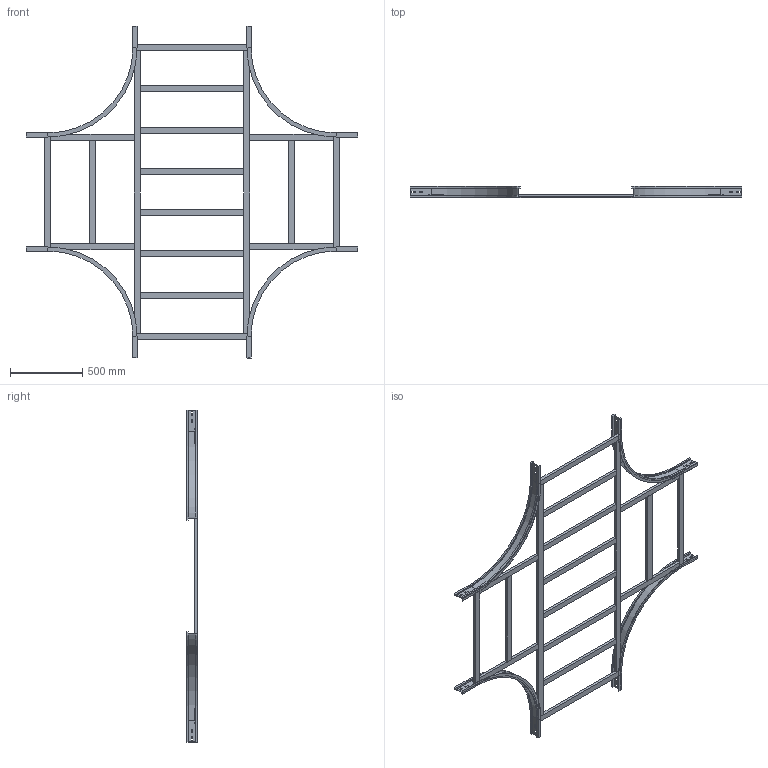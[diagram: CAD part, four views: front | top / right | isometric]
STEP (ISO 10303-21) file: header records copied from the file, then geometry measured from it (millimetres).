
FILE_DESCRIPTION (( 'STEP AP214' ), '1' );
FILE_NAME ('17S6C800.step', '2025-02-21T16:19:22', ( '' ), ( '' ), 'SwSTEP 2.0', 'SolidWorks 2023', '' );
FILE_SCHEMA (( 'AUTOMOTIVE_DESIGN' ));
Length unit declared in the file: millimetre
Products named in the file (7): TRAVERSINO_800; TRAVERSINO_INTERMEDIO_X_R600+800; TRAVERSINO_LONG._R600+800; TRAVERSINO_VERT_R600; 17S6C800; TRAVERSINO_COPPIA_800; LONGH.INTERNO 90°_H75_R600
Assembly tree (22 placements, depth 2):
  17S6C800
    LONGH.INTERNO 90°_H75_R600  x4
    TRAVERSINO_800  x4
    TRAVERSINO_LONG._R600+800  x2
    TRAVERSINO_INTERMEDIO_X_R600+800  x6
    TRAVERSINO_VERT_R600  x4
    TRAVERSINO_COPPIA_800  x2
Bounding box: 2300 x 75 x 2300 mm (x, y, z)
Volume: 14725523.5 mm3; surface area: 3092141.8 mm2
Topology: 22 solids, 22 shells, 324 faces, 744 edges, 464 vertices
Faces by surface type: plane 300, cylinder 24
Entity records: 2660 total; most frequent: DIRECTION 422, CARTESIAN_POINT 421, ORIENTED_EDGE 384, EDGE_CURVE 192, LINE 180, VECTOR 180, AXIS2_PLACEMENT_3D 121, VERTEX_POINT 120
